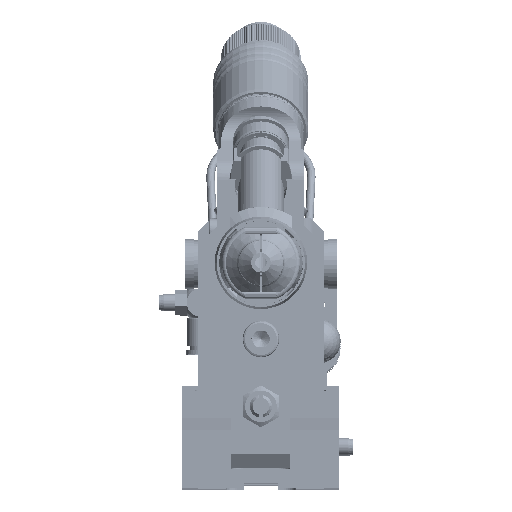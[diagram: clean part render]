
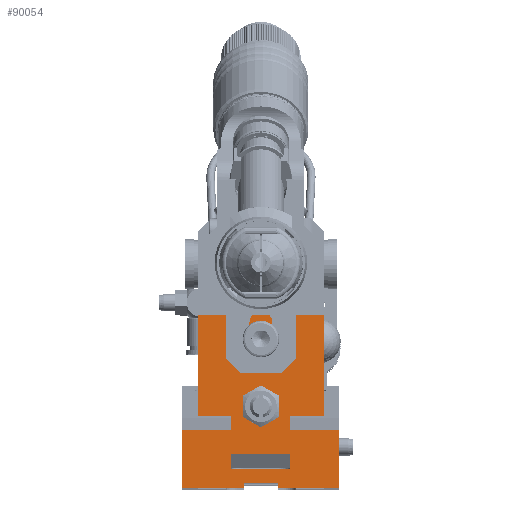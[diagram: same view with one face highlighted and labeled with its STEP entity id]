
A CAD part, top view. The second image highlights one B-rep face of the part: STEP entity #90054.
In plain terms, the highlighted planar face has unit normal (0, 0, 1) by its records, which use the part's own axes.
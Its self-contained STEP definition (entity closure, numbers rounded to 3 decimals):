
#5294=LINE($,#141186,#10661);
#5295=LINE($,#141188,#10662);
#5296=LINE($,#141190,#10663);
#5297=LINE($,#141192,#10664);
#5298=LINE($,#141194,#10665);
#5299=LINE($,#141196,#10666);
#5300=LINE($,#141198,#10667);
#5301=LINE($,#141200,#10668);
#5302=LINE($,#141202,#10669);
#5303=LINE($,#141204,#10670);
#5304=LINE($,#141206,#10671);
#5305=LINE($,#141208,#10672);
#5306=LINE($,#141210,#10673);
#5307=LINE($,#141212,#10674);
#5308=LINE($,#141214,#10675);
#5309=LINE($,#141215,#10676);
#5310=LINE($,#141220,#10677);
#5311=LINE($,#141222,#10678);
#5312=LINE($,#141224,#10679);
#5313=LINE($,#141226,#10680);
#5314=LINE($,#141228,#10681);
#5315=LINE($,#141229,#10682);
#5316=LINE($,#141232,#10683);
#5317=LINE($,#141234,#10684);
#5318=LINE($,#141236,#10685);
#5319=LINE($,#141237,#10686);
#10661=VECTOR($,#109752,17.5);
#10662=VECTOR($,#109753,20.713);
#10663=VECTOR($,#109754,22.);
#10664=VECTOR($,#109755,1.5);
#10665=VECTOR($,#109756,12.);
#10666=VECTOR($,#109757,1.5);
#10667=VECTOR($,#109758,22.);
#10668=VECTOR($,#109759,20.713);
#10669=VECTOR($,#109760,17.5);
#10670=VECTOR($,#109761,4.787);
#10671=VECTOR($,#109762,12.);
#10672=VECTOR($,#109763,36.);
#10673=VECTOR($,#109764,45.);
#10674=VECTOR($,#109765,36.);
#10675=VECTOR($,#109766,12.);
#10676=VECTOR($,#109767,4.787);
#10677=VECTOR($,#109770,3.998);
#10678=VECTOR($,#109771,15.);
#10679=VECTOR($,#109772,3.998);
#10680=VECTOR($,#109773,2.);
#10681=VECTOR($,#109774,20.654);
#10682=VECTOR($,#109775,2.);
#10683=VECTOR($,#109776,21.);
#10684=VECTOR($,#109777,5.157);
#10685=VECTOR($,#109778,21.);
#10686=VECTOR($,#109779,5.157);
#20785=PLANE($,#96659);
#25020=FACE_BOUND($,#33764,.T.);
#25021=FACE_BOUND($,#33765,.T.);
#25022=FACE_BOUND($,#33766,.T.);
#25023=FACE_BOUND($,#33767,.T.);
#27696=FACE_OUTER_BOUND($,#33763,.T.);
#33763=EDGE_LOOP($,(#69427,#69428,#69429,#69430,#69431,#69432,#69433,#69434,
#69435,#69436,#69437,#69438,#69439,#69440,#69441,#69442));
#33764=EDGE_LOOP($,(#69443));
#33765=EDGE_LOOP($,(#69444,#69445,#69446,#69447,#69448,#69449));
#33766=EDGE_LOOP($,(#69450));
#33767=EDGE_LOOP($,(#69451,#69452,#69453,#69454));
#39854=CIRCLE($,#96652,5.65);
#39855=CIRCLE($,#96660,4.);
#44828=VERTEX_POINT($,#141169);
#44829=VERTEX_POINT($,#141184);
#44830=VERTEX_POINT($,#141185);
#44831=VERTEX_POINT($,#141187);
#44832=VERTEX_POINT($,#141189);
#44833=VERTEX_POINT($,#141191);
#44834=VERTEX_POINT($,#141193);
#44835=VERTEX_POINT($,#141195);
#44836=VERTEX_POINT($,#141197);
#44837=VERTEX_POINT($,#141199);
#44838=VERTEX_POINT($,#141201);
#44839=VERTEX_POINT($,#141203);
#44840=VERTEX_POINT($,#141205);
#44841=VERTEX_POINT($,#141207);
#44842=VERTEX_POINT($,#141209);
#44843=VERTEX_POINT($,#141211);
#44844=VERTEX_POINT($,#141213);
#44845=VERTEX_POINT($,#141216);
#44846=VERTEX_POINT($,#141218);
#44847=VERTEX_POINT($,#141219);
#44848=VERTEX_POINT($,#141221);
#44849=VERTEX_POINT($,#141223);
#44850=VERTEX_POINT($,#141225);
#44851=VERTEX_POINT($,#141227);
#44852=VERTEX_POINT($,#141230);
#44853=VERTEX_POINT($,#141231);
#44854=VERTEX_POINT($,#141233);
#44855=VERTEX_POINT($,#141235);
#54227=EDGE_CURVE($,#44828,#44828,#39854,.T.);
#54234=EDGE_CURVE($,#44829,#44830,#5294,.T.);
#54235=EDGE_CURVE($,#44831,#44830,#5295,.T.);
#54236=EDGE_CURVE($,#44832,#44831,#5296,.T.);
#54237=EDGE_CURVE($,#44832,#44833,#5297,.T.);
#54238=EDGE_CURVE($,#44833,#44834,#5298,.T.);
#54239=EDGE_CURVE($,#44834,#44835,#5299,.T.);
#54240=EDGE_CURVE($,#44836,#44835,#5300,.T.);
#54241=EDGE_CURVE($,#44836,#44837,#5301,.T.);
#54242=EDGE_CURVE($,#44837,#44838,#5302,.T.);
#54243=EDGE_CURVE($,#44838,#44839,#5303,.T.);
#54244=EDGE_CURVE($,#44839,#44840,#5304,.T.);
#54245=EDGE_CURVE($,#44840,#44841,#5305,.T.);
#54246=EDGE_CURVE($,#44842,#44841,#5306,.T.);
#54247=EDGE_CURVE($,#44842,#44843,#5307,.T.);
#54248=EDGE_CURVE($,#44843,#44844,#5308,.T.);
#54249=EDGE_CURVE($,#44844,#44829,#5309,.T.);
#54250=EDGE_CURVE($,#44845,#44845,#39855,.T.);
#54251=EDGE_CURVE($,#44846,#44847,#5310,.T.);
#54252=EDGE_CURVE($,#44847,#44848,#5311,.T.);
#54253=EDGE_CURVE($,#44848,#44849,#5312,.T.);
#54254=EDGE_CURVE($,#44849,#44850,#5313,.T.);
#54255=EDGE_CURVE($,#44850,#44851,#5314,.T.);
#54256=EDGE_CURVE($,#44851,#44846,#5315,.T.);
#54257=EDGE_CURVE($,#44852,#44853,#5316,.T.);
#54258=EDGE_CURVE($,#44852,#44854,#5317,.T.);
#54259=EDGE_CURVE($,#44854,#44855,#5318,.T.);
#54260=EDGE_CURVE($,#44855,#44853,#5319,.T.);
#69427=ORIENTED_EDGE($,*,*,#54234,.T.);
#69428=ORIENTED_EDGE($,*,*,#54235,.F.);
#69429=ORIENTED_EDGE($,*,*,#54236,.F.);
#69430=ORIENTED_EDGE($,*,*,#54237,.T.);
#69431=ORIENTED_EDGE($,*,*,#54238,.T.);
#69432=ORIENTED_EDGE($,*,*,#54239,.T.);
#69433=ORIENTED_EDGE($,*,*,#54240,.F.);
#69434=ORIENTED_EDGE($,*,*,#54241,.T.);
#69435=ORIENTED_EDGE($,*,*,#54242,.T.);
#69436=ORIENTED_EDGE($,*,*,#54243,.T.);
#69437=ORIENTED_EDGE($,*,*,#54244,.T.);
#69438=ORIENTED_EDGE($,*,*,#54245,.T.);
#69439=ORIENTED_EDGE($,*,*,#54246,.F.);
#69440=ORIENTED_EDGE($,*,*,#54247,.T.);
#69441=ORIENTED_EDGE($,*,*,#54248,.T.);
#69442=ORIENTED_EDGE($,*,*,#54249,.T.);
#69443=ORIENTED_EDGE($,*,*,#54250,.T.);
#69444=ORIENTED_EDGE($,*,*,#54251,.T.);
#69445=ORIENTED_EDGE($,*,*,#54252,.T.);
#69446=ORIENTED_EDGE($,*,*,#54253,.T.);
#69447=ORIENTED_EDGE($,*,*,#54254,.T.);
#69448=ORIENTED_EDGE($,*,*,#54255,.T.);
#69449=ORIENTED_EDGE($,*,*,#54256,.T.);
#69450=ORIENTED_EDGE($,*,*,#54227,.T.);
#69451=ORIENTED_EDGE($,*,*,#54257,.F.);
#69452=ORIENTED_EDGE($,*,*,#54258,.T.);
#69453=ORIENTED_EDGE($,*,*,#54259,.T.);
#69454=ORIENTED_EDGE($,*,*,#54260,.T.);
#90054=ADVANCED_FACE($,(#27696,#25020,#25021,#25022,#25023),#20785,.T.);
#96652=AXIS2_PLACEMENT_3D($,#141170,#109730,#109731);
#96659=AXIS2_PLACEMENT_3D($,#141183,#109750,#109751);
#96660=AXIS2_PLACEMENT_3D($,#141217,#109768,#109769);
#109730=DIRECTION('center_axis',(0.,0.,-1.));
#109731=DIRECTION('ref_axis',(0.,-1.,0.));
#109750=DIRECTION('center_axis',(0.,0.,1.));
#109751=DIRECTION('ref_axis',(1.,0.,0.));
#109752=DIRECTION($,(-1.,0.,0.));
#109753=DIRECTION($,(0.,1.,0.));
#109754=DIRECTION($,(-1.,0.,0.));
#109755=DIRECTION($,(0.,1.,0.));
#109756=DIRECTION($,(1.,0.,0.));
#109757=DIRECTION($,(0.,-1.,0.));
#109758=DIRECTION($,(-1.,0.,0.));
#109759=DIRECTION($,(0.,1.,0.));
#109760=DIRECTION($,(-1.,0.,0.));
#109761=DIRECTION($,(0.,1.,0.));
#109762=DIRECTION($,(1.,0.,0.));
#109763=DIRECTION($,(0.,1.,0.));
#109764=DIRECTION($,(1.,0.,0.));
#109765=DIRECTION($,(0.,-1.,0.));
#109766=DIRECTION($,(1.,0.,0.));
#109767=DIRECTION($,(0.,-1.,0.));
#109768=DIRECTION('center_axis',(0.,0.,-1.));
#109769=DIRECTION('ref_axis',(0.,1.,0.));
#109770=DIRECTION($,(-0.707,-0.707,0.));
#109771=DIRECTION($,(-1.,0.,0.));
#109772=DIRECTION($,(-0.707,0.707,0.));
#109773=DIRECTION($,(0.,1.,0.));
#109774=DIRECTION($,(1.,0.,0.));
#109775=DIRECTION($,(0.,-1.,0.));
#109776=DIRECTION($,(-1.,0.,0.));
#109777=DIRECTION($,(0.,-1.,0.));
#109778=DIRECTION($,(-1.,0.,0.));
#109779=DIRECTION($,(0.,1.,0.));
#141169=CARTESIAN_POINT('',(0.,23.35,487.));
#141170=CARTESIAN_POINT('Origin',(0.,29.,
487.));
#141183=CARTESIAN_POINT('Origin',(28.,0.,
487.));
#141184=CARTESIAN_POINT('',(-10.5,20.713,487.));
#141185=CARTESIAN_POINT('',(-28.,20.713,487.));
#141186=CARTESIAN_POINT($,(-10.5,20.713,487.));
#141187=CARTESIAN_POINT('',(-28.,0.,487.));
#141188=CARTESIAN_POINT($,(-28.,0.,487.));
#141189=CARTESIAN_POINT('',(-6.,0.,487.));
#141190=CARTESIAN_POINT($,(-6.,0.,487.));
#141191=CARTESIAN_POINT('',(-6.,1.5,487.));
#141192=CARTESIAN_POINT($,(-6.,0.,487.));
#141193=CARTESIAN_POINT('',(6.,1.5,487.));
#141194=CARTESIAN_POINT($,(-6.,1.5,487.));
#141195=CARTESIAN_POINT('',(6.,0.,487.));
#141196=CARTESIAN_POINT($,(6.,1.5,487.));
#141197=CARTESIAN_POINT('',(28.,0.,487.));
#141198=CARTESIAN_POINT($,(28.,0.,487.));
#141199=CARTESIAN_POINT('',(28.,20.713,487.));
#141200=CARTESIAN_POINT($,(28.,0.,487.));
#141201=CARTESIAN_POINT('',(10.5,20.713,487.));
#141202=CARTESIAN_POINT($,(28.,20.713,487.));
#141203=CARTESIAN_POINT('',(10.5,25.5,487.));
#141204=CARTESIAN_POINT($,(10.5,20.713,487.));
#141205=CARTESIAN_POINT('',(22.5,25.5,487.));
#141206=CARTESIAN_POINT($,(10.5,25.5,487.));
#141207=CARTESIAN_POINT('',(22.5,61.5,487.));
#141208=CARTESIAN_POINT($,(22.5,25.5,487.));
#141209=CARTESIAN_POINT('',(-22.5,61.5,487.));
#141210=CARTESIAN_POINT($,(-22.5,61.5,487.));
#141211=CARTESIAN_POINT('',(-22.5,25.5,487.));
#141212=CARTESIAN_POINT($,(-22.5,61.5,487.));
#141213=CARTESIAN_POINT('',(-10.5,25.5,487.));
#141214=CARTESIAN_POINT($,(-22.5,25.5,487.));
#141215=CARTESIAN_POINT($,(-10.5,25.5,487.));
#141216=CARTESIAN_POINT('',(0.,49.,487.));
#141217=CARTESIAN_POINT('Origin',(0.,53.,
487.));
#141218=CARTESIAN_POINT('',(10.327,43.827,487.));
#141219=CARTESIAN_POINT('',(7.5,41.,487.));
#141220=CARTESIAN_POINT($,(10.327,43.827,487.));
#141221=CARTESIAN_POINT('',(-7.5,41.,487.));
#141222=CARTESIAN_POINT($,(7.5,41.,487.));
#141223=CARTESIAN_POINT('',(-10.327,43.827,487.));
#141224=CARTESIAN_POINT($,(-7.5,41.,487.));
#141225=CARTESIAN_POINT('',(-10.327,45.827,487.));
#141226=CARTESIAN_POINT($,(-10.327,43.827,487.));
#141227=CARTESIAN_POINT('',(10.327,45.827,487.));
#141228=CARTESIAN_POINT($,(-10.327,45.827,487.));
#141229=CARTESIAN_POINT($,(10.327,45.827,487.));
#141230=CARTESIAN_POINT('',(10.5,11.957,487.));
#141231=CARTESIAN_POINT('',(-10.5,11.957,487.));
#141232=CARTESIAN_POINT($,(10.5,11.957,487.));
#141233=CARTESIAN_POINT('',(10.5,6.8,487.));
#141234=CARTESIAN_POINT($,(10.5,11.957,487.));
#141235=CARTESIAN_POINT('',(-10.5,6.8,487.));
#141236=CARTESIAN_POINT($,(10.5,6.8,487.));
#141237=CARTESIAN_POINT($,(-10.5,6.8,487.));
